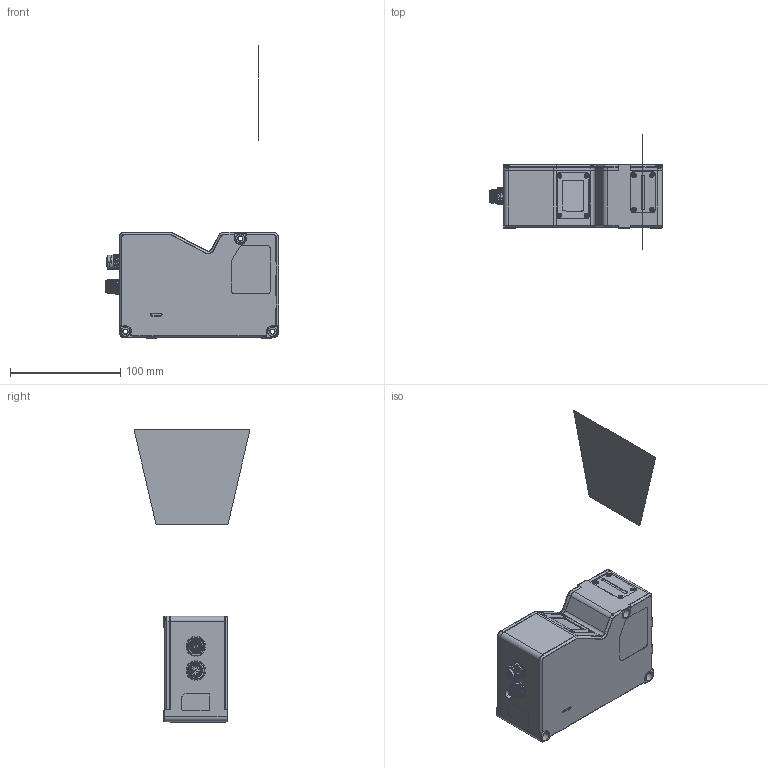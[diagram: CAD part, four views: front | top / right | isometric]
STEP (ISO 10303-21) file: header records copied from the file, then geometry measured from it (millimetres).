
FILE_DESCRIPTION((''),'2;1');
FILE_NAME('MV-DP3120-01P_V2','2025-07-17T11:52:01',('wangminrui'),(''),'CREO PARAMETRIC BY PTC INC, 2020044','CREO PARAMETRIC BY PTC INC, 2020044','');
FILE_SCHEMA(('CONFIG_CONTROL_DESIGN'));
Products named in the file (1): MV-DP3120-01P_V2
Bounding box: 157.5 x 105 x 265 mm (x, y, z)
Surface area: 70923.4 mm2 (no closed solid volume)
Topology: 0 solids, 44 shells, 837 faces, 2705 edges, 1859 vertices
Faces by surface type: plane 257, cylinder 237, cone 202, torus 85, bspline 56
Entity records: 47876 total; most frequent: CARTESIAN_POINT 24895, ORIENTED_EDGE 4620, DIRECTION 4616, EDGE_CURVE 2685, VERTEX_POINT 1859, AXIS2_PLACEMENT_3D 1714, VECTOR 1188, LINE 1188
